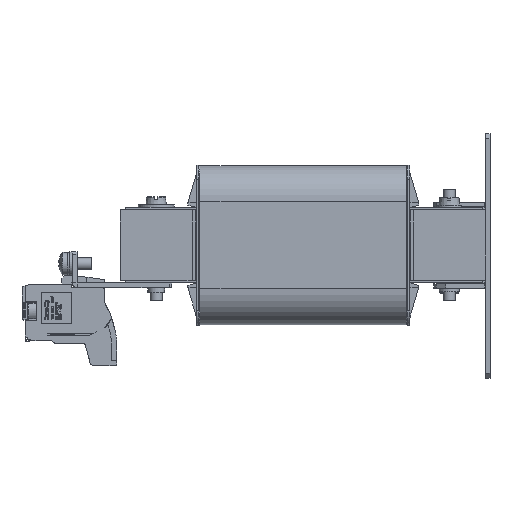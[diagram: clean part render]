
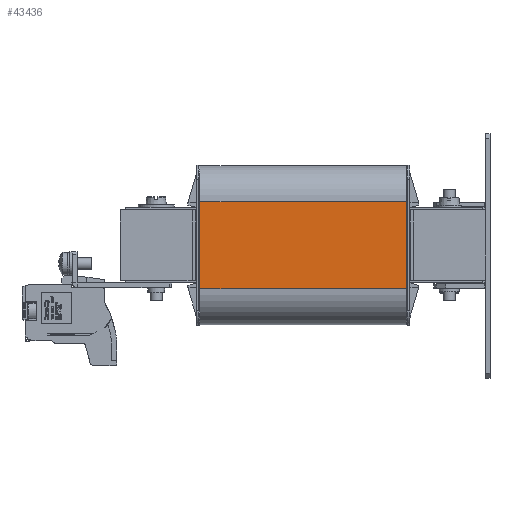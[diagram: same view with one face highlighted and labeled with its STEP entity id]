
A CAD part, left-side view. The second image highlights one B-rep face of the part: STEP entity #43436.
In plain terms, the highlighted planar face has unit normal (-1, 0, 0).
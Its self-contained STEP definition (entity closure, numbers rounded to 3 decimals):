
#1626 = CARTESIAN_POINT ( 'NONE',  ( -29.3, 0., 33.25 ) ) ;
#2280 = VECTOR ( 'NONE', #18747, 1000. ) ;
#3523 = VECTOR ( 'NONE', #63764, 1000. ) ;
#14458 = LINE ( 'NONE', #72755, #58938 ) ;
#18747 = DIRECTION ( 'NONE',  ( 0., 0., 1. ) ) ;
#25934 = LINE ( 'NONE', #89843, #2280 ) ;
#26376 = AXIS2_PLACEMENT_3D ( 'NONE', #71941, #45538, #107731 ) ;
#27661 = PLANE ( 'NONE',  #26376 ) ;
#31295 = EDGE_LOOP ( 'NONE', ( #82287, #46724, #50755, #78736 ) ) ;
#31667 = DIRECTION ( 'NONE',  ( 0., 1., 0. ) ) ;
#39704 = EDGE_CURVE ( 'NONE', #82633, #75773, #48010, .T. ) ;
#39760 = VERTEX_POINT ( 'NONE', #108511 ) ;
#40352 = EDGE_CURVE ( 'NONE', #39760, #82633, #14458, .T. ) ;
#43436 = ADVANCED_FACE ( 'NONE', ( #83205 ), #27661, .F. ) ;
#44967 = EDGE_CURVE ( 'NONE', #39760, #93378, #25934, .T. ) ;
#45538 = DIRECTION ( 'NONE',  ( 1., 0., 0. ) ) ;
#46724 = ORIENTED_EDGE ( 'NONE', *, *, #40352, .T. ) ;
#48010 = LINE ( 'NONE', #1626, #3523 ) ;
#50755 = ORIENTED_EDGE ( 'NONE', *, *, #39704, .T. ) ;
#55647 = DIRECTION ( 'NONE',  ( 0., -1., 0. ) ) ;
#58938 = VECTOR ( 'NONE', #55647, 1000. ) ;
#63764 = DIRECTION ( 'NONE',  ( 0., 0., 1. ) ) ;
#68513 = CARTESIAN_POINT ( 'NONE',  ( -29.3, 0., 18.25 ) ) ;
#71941 = CARTESIAN_POINT ( 'NONE',  ( -29.3, 86.2, 33.25 ) ) ;
#72755 = CARTESIAN_POINT ( 'NONE',  ( -29.3, 86.2, -18.25 ) ) ;
#73503 = LINE ( 'NONE', #93809, #94390 ) ;
#75773 = VERTEX_POINT ( 'NONE', #68513 ) ;
#78736 = ORIENTED_EDGE ( 'NONE', *, *, #104950, .T. ) ;
#82287 = ORIENTED_EDGE ( 'NONE', *, *, #44967, .F. ) ;
#82633 = VERTEX_POINT ( 'NONE', #87324 ) ;
#83205 = FACE_OUTER_BOUND ( 'NONE', #31295, .T. ) ;
#87324 = CARTESIAN_POINT ( 'NONE',  ( -29.3, 0., -18.25 ) ) ;
#87682 = CARTESIAN_POINT ( 'NONE',  ( -29.3, 86.2, 18.25 ) ) ;
#89843 = CARTESIAN_POINT ( 'NONE',  ( -29.3, 86.2, 33.25 ) ) ;
#93378 = VERTEX_POINT ( 'NONE', #87682 ) ;
#93809 = CARTESIAN_POINT ( 'NONE',  ( -29.3, 86.2, 18.25 ) ) ;
#94390 = VECTOR ( 'NONE', #31667, 1000. ) ;
#104950 = EDGE_CURVE ( 'NONE', #75773, #93378, #73503, .T. ) ;
#107731 = DIRECTION ( 'NONE',  ( 0., 0., -1. ) ) ;
#108511 = CARTESIAN_POINT ( 'NONE',  ( -29.3, 86.2, -18.25 ) ) ;
